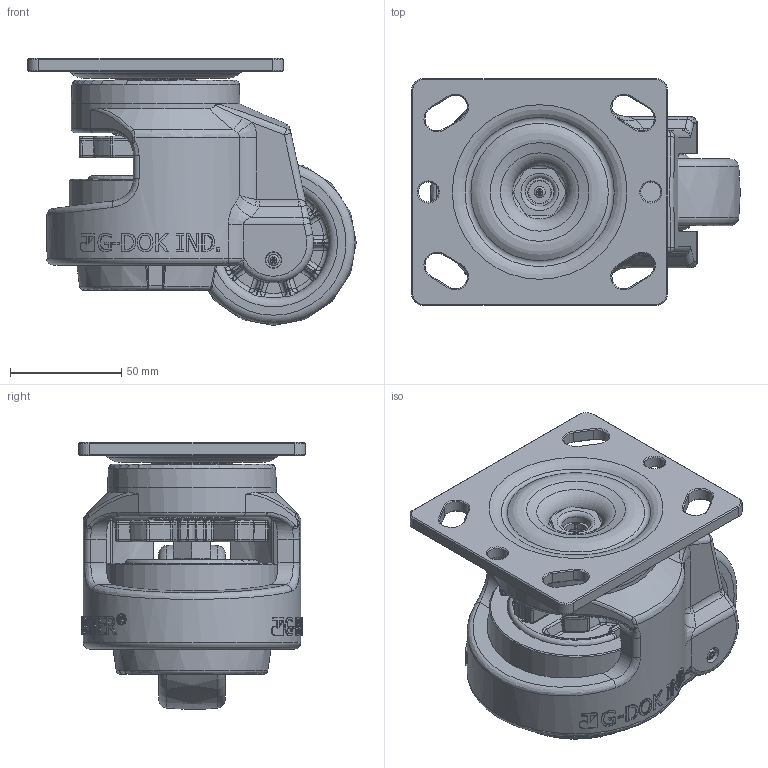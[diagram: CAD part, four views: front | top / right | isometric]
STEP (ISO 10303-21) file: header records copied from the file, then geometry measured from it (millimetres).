
FILE_DESCRIPTION(/* description */ (''),/* implementation_level */ '2;1');
FILE_NAME(/* name */ 'E:\홈피용도면\\X2\C2E0ADDCD648D398C774C9C0C6A9B3C4BA74\X0\\GD-SERIES\GDN-100-F\GDN-100-F-PUS.stp',/* time_stamp */ '2016-03-14T16:47:07+09:00',/* author */ ('장용하'),/* organization */ (''),/* preprocessor_version */ 'ST-DEVELOPER v15.6',/* originating_system */ 'Autodesk Inventor 2015',/* authorisation */ '');
FILE_SCHEMA (('AUTOMOTIVE_DESIGN { 1 0 10303 214 3 1 1 }'));
Length unit declared in the file: millimetre
Products named in the file (1): GDN-100-F
Bounding box: 147.7 x 102 x 120.04 mm (x, y, z)
Volume: 614566 mm3; surface area: 154432 mm2
Topology: 7 solids, 10 shells, 2633 faces, 6363 edges, 3696 vertices
Faces by surface type: bspline 859, plane 639, cylinder 487, cone 263, torus 205, sphere 180
Full cylindrical faces by diameter (mm): 1 x2, 3 x3, 5 x3, 9 x2, 9.3 x1, 10 x1, 10.6 x1, 10.7 x1, 12 x3, 12.2 x1, 12.8 x1, 16 x1, 18.676 x1, 20 x1, 24 x1, 25 x1, 27 x1, 41.6 x1, 42.6 x1, 43.2 x1, 78.496 x1
Entity records: 124504 total; most frequent: CARTESIAN_POINT 68182, ORIENTED_EDGE 12182, DIRECTION 11018, EDGE_CURVE 6089, AXIS2_PLACEMENT_3D 4581, VERTEX_POINT 3658, EDGE_LOOP 2847, FACE_OUTER_BOUND 2633
